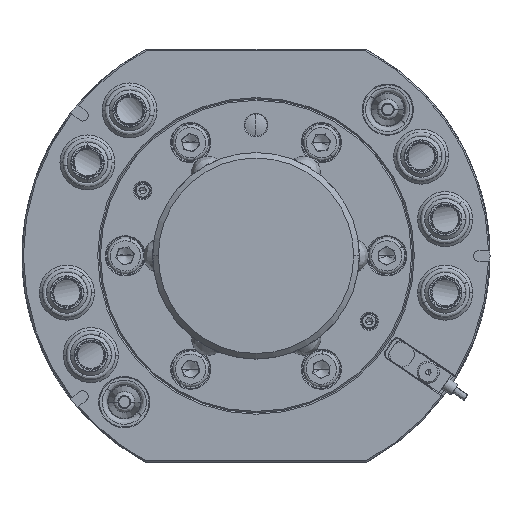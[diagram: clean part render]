
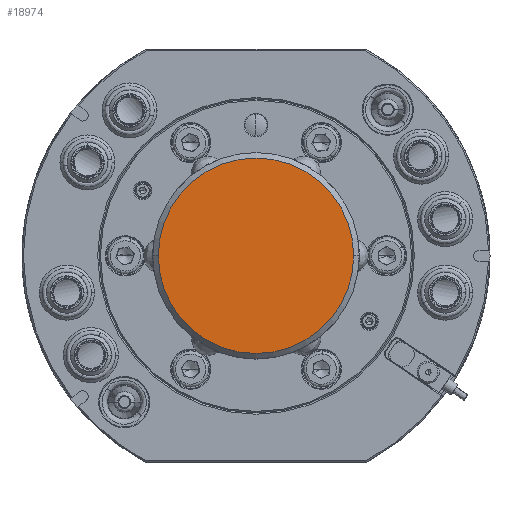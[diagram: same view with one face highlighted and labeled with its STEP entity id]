
A CAD part, top view. The second image highlights one B-rep face of the part: STEP entity #18974.
In plain terms, the highlighted planar face has unit normal (0, 0, 1).
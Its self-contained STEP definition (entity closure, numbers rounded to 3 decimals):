
#807 = ORIENTED_EDGE ( 'NONE', *, *, #21455, .F. ) ;
#1010 = VERTEX_POINT ( 'NONE', #46667 ) ;
#3507 = FACE_OUTER_BOUND ( 'NONE', #65456, .T. ) ;
#11444 = VERTEX_POINT ( 'NONE', #19291 ) ;
#16193 = CARTESIAN_POINT ( 'NONE',  ( 0., 0., 0. ) ) ;
#18974 = ADVANCED_FACE ( 'NONE', ( #3507 ), #50124, .T. ) ;
#19291 = CARTESIAN_POINT ( 'NONE',  ( 35.5, 0., 0. ) ) ;
#20864 = DIRECTION ( 'NONE',  ( 0., 0., 1. ) ) ;
#21455 = EDGE_CURVE ( 'NONE', #1010, #11444, #81606, .T. ) ;
#23684 = DIRECTION ( 'NONE',  ( -1., 0., 0. ) ) ;
#34169 = CARTESIAN_POINT ( 'NONE',  ( 0., 0., 0. ) ) ;
#41509 = DIRECTION ( 'NONE',  ( -1., 0., 0. ) ) ;
#45708 = EDGE_CURVE ( 'NONE', #11444, #1010, #77324, .T. ) ;
#46667 = CARTESIAN_POINT ( 'NONE',  ( -35.5, 0., 0. ) ) ;
#50124 = PLANE ( 'NONE',  #61099 ) ;
#54443 = AXIS2_PLACEMENT_3D ( 'NONE', #16193, #67709, #23684 ) ;
#61099 = AXIS2_PLACEMENT_3D ( 'NONE', #86751, #20864, #72351 ) ;
#65456 = EDGE_LOOP ( 'NONE', ( #807, #78044 ) ) ;
#67709 = DIRECTION ( 'NONE',  ( 0., 0., -1. ) ) ;
#72351 = DIRECTION ( 'NONE',  ( 1., 0., 0. ) ) ;
#77324 = CIRCLE ( 'NONE', #54443, 35.5 ) ;
#78044 = ORIENTED_EDGE ( 'NONE', *, *, #45708, .F. ) ;
#81606 = CIRCLE ( 'NONE', #87087, 35.5 ) ;
#85504 = DIRECTION ( 'NONE',  ( 0., 0., -1. ) ) ;
#86751 = CARTESIAN_POINT ( 'NONE',  ( 0., 0., 0. ) ) ;
#87087 = AXIS2_PLACEMENT_3D ( 'NONE', #34169, #85504, #41509 ) ;
